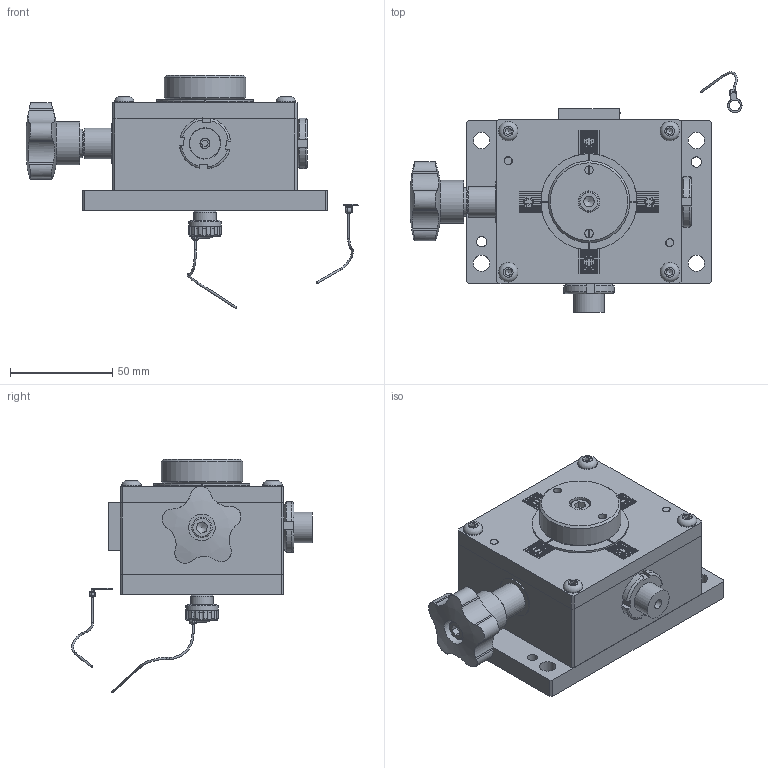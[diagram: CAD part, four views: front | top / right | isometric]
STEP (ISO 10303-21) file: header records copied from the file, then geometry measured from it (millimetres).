
FILE_DESCRIPTION(/* description */ (''),/* implementation_level */ '2;1');
FILE_NAME(/* name */ 'C:\Local Work Area\Progetti\AP\CALIBRI\146.00 Posizionatore\146.00\146.00-SX-Y.stp',/* time_stamp */ '2020-02-20T14:55:25+01:00',/* author */ ('CAD5'),/* organization */ (''),/* preprocessor_version */ 'ST-DEVELOPER v17.2',/* originating_system */ 'Autodesk Inventor 2019',/* authorisation */ '');
FILE_SCHEMA (('AUTOMOTIVE_DESIGN { 1 0 10303 214 3 1 1 }'));
Length unit declared in the file: millimetre
Products named in the file (34): 146.00-SX-Y; 146.03; 146.01; 146.07; 146.02; 146.00_002 Ass manopola-02; 146.00_002 Ass manopola-01; 146.09; UNI 5931 - M 6 x  30; Manopola mecanoplastica 12010250; 146.10; UNI 5933 - M4 x 20; UNI 5923 - M6 x 1 x 8; B12.5 UNI8773; GHIERA M15x1 KM2; UNI 5931 - M5 x 0,8 x 16; ISO 2338 - 5 m6 x 20 - A; Copia di ISO 7380 - M5 x 16; 146.06; UNI 5927 - M5 x 6; 146.00_001 Attrezzatura; 146.04; 146.05; UNI 5931 - M 6 x  20; 146.00 Ass spina; ISO 8735 - 8 x 35 - A; VOLANTINO ZIGRINATO - 130 10 100; catenella; catenella-1; catenella-2; UNI ISO 7380 - M5 x 20; TAPPO_001; ISO 8734 - Ø4 x 16 - A (AP); 146.11
Assembly tree (47 placements, depth 4):
  146.00-SX-Y
    146.03
    146.01
    146.07
    146.02
    146.00_002 Ass manopola-02
      146.09
      146.10
      UNI 5933 - M4 x 20
      UNI 5923 - M6 x 1 x 8
    146.00_002 Ass manopola-01
      146.09
      UNI 5931 - M 6 x  30
      Manopola mecanoplastica 12010250
      146.10
      UNI 5933 - M4 x 20
      UNI 5923 - M6 x 1 x 8
      B12.5 UNI8773  x2
    GHIERA M15x1 KM2  x2
    UNI 5931 - M5 x 0,8 x 16  x4
    ISO 2338 - 5 m6 x 20 - A  x2
    Copia di ISO 7380 - M5 x 16  x4
    146.06
    UNI 5927 - M5 x 6
    146.00_001 Attrezzatura
      146.04
      146.05
      UNI 5931 - M 6 x  20
    146.00 Ass spina
      ISO 8735 - 8 x 35 - A
      VOLANTINO ZIGRINATO - 130 10 100
      catenella
        catenella-1
        catenella-2
      UNI ISO 7380 - M5 x 20
    TAPPO_001
    ISO 8734 - Ø4 x 16 - A (AP)  x2
    146.11
Bounding box: 162.33 x 117.71 x 114.1 mm (x, y, z)
Volume: 394165.5 mm3; surface area: 134236.5 mm2
Topology: 44 solids, 44 shells, 1066 faces, 2762 edges, 1881 vertices
Faces by surface type: plane 665, cylinder 203, cone 92, bspline 54, torus 51, sphere 1
Full cylindrical faces by diameter (mm): 1 x6, 3.242 x2, 4 x8, 4.1 x2, 4.134 x12, 4.135 x1, 4.917 x4, 5 x23, 5.2 x2, 5.3 x1, 5.333 x1, 6 x5, 6.1 x1, 6.4 x2, 6.5 x4, 7.64 x2, 8 x15, 8.5 x4, 9 x4, 9.5 x5, 10 x2, 10.5 x1, 11 x1, 11.5 x4, 12 x5, 12.9 x1, 13 x1, 13.867 x1, 13.9 x1, 13.917 x3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
Entity records: 30192 total; most frequent: CARTESIAN_POINT 6602, ORIENTED_EDGE 4580, DIRECTION 4485, EDGE_CURVE 2290, VERTEX_POINT 1574, AXIS2_PLACEMENT_3D 1532, LINE 1421, VECTOR 1421
